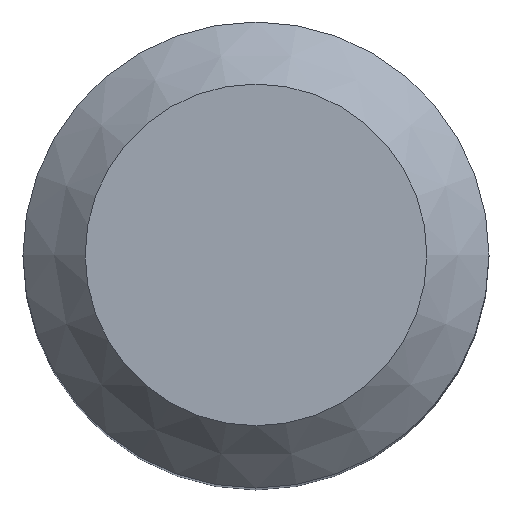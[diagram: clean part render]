
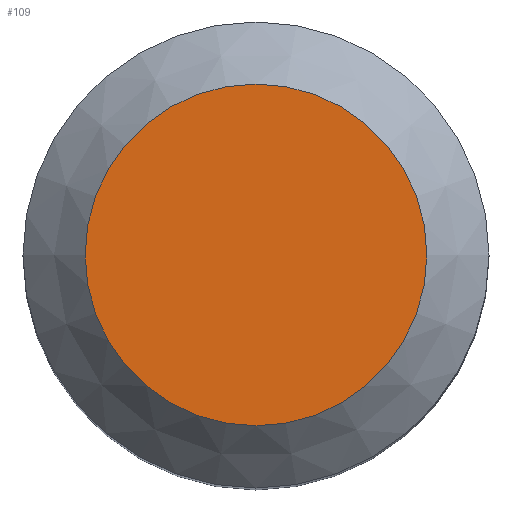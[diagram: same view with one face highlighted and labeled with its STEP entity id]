
A CAD part, top view. The second image highlights one B-rep face of the part: STEP entity #109.
In plain terms, the highlighted planar face has unit normal (0, 0, 1).
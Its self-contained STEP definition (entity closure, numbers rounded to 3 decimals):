
#90 = VERTEX_POINT('',#91);
#91 = CARTESIAN_POINT('',(1.1,0.,8.));
#97 = EDGE_CURVE('',#90,#90,#98,.T.);
#98 = CIRCLE('',#99,1.1);
#99 = AXIS2_PLACEMENT_3D('',#100,#101,#102);
#100 = CARTESIAN_POINT('',(0.,0.,8.));
#101 = DIRECTION('',(-0.,0.,1.));
#102 = DIRECTION('',(1.,0.,0.));
#109 = ADVANCED_FACE('',(#110),#113,.T.);
#110 = FACE_BOUND('',#111,.T.);
#111 = EDGE_LOOP('',(#112));
#112 = ORIENTED_EDGE('',*,*,#97,.T.);
#113 = PLANE('',#114);
#114 = AXIS2_PLACEMENT_3D('',#115,#116,#117);
#115 = CARTESIAN_POINT('',(0.,0.,8.));
#116 = DIRECTION('',(0.,0.,1.));
#117 = DIRECTION('',(1.,0.,-0.));
